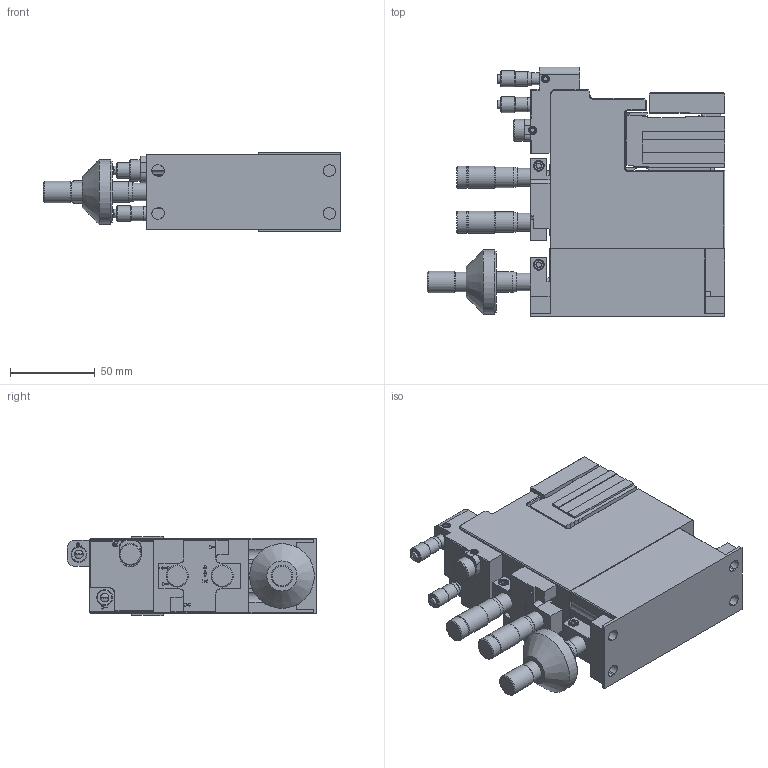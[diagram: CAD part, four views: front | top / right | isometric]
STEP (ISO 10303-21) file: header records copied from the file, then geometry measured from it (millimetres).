
FILE_DESCRIPTION((''),'1');
FILE_NAME('P1-L-H-I','2021-03-23T15:30:34',('JD'),('Luminos'),'Spatial Interop R20 SP1','Kubotek KeyCreator V9.0.3 (16864)',' ');
FILE_SCHEMA(('automotive_design'));
Length unit declared in the file: inch
Products named in the file (2): 1; 2
Bounding box: 175.18 x 147.07 x 46.99 mm (x, y, z)
Volume: 657731.4 mm3; surface area: 90495.7 mm2
Topology: 2 solids, 3 shells, 854 faces, 2005 edges, 1253 vertices
Faces by surface type: plane 517, cone 167, cylinder 166, sphere 4
Full cylindrical faces by diameter (mm): 2.261 x25, 4.039 x3, 4.648 x8, 4.762 x6, 4.775 x2, 5 x3, 5.08 x2, 5.74 x4, 6.35 x3, 7.01 x2, 7.144 x1, 8.509 x2, 9.322 x2, 9.5 x2, 9.525 x1, 10.49 x3, 11.684 x1, 12.116 x3, 12.7 x2, 13.081 x4, 38.1 x1
Entity records: 42147 total; most frequent: CARTESIAN_POINT 4054, DIRECTION 3937, ORIENTED_EDGE 3616, PRESENTATION_STYLE_ASSIGNMENT 3520, COLOUR_RGB 3520, STYLED_ITEM 2664, CURVE_STYLE 2664, DRAUGHTING_PRE_DEFINED_CURVE_FONT 2664
